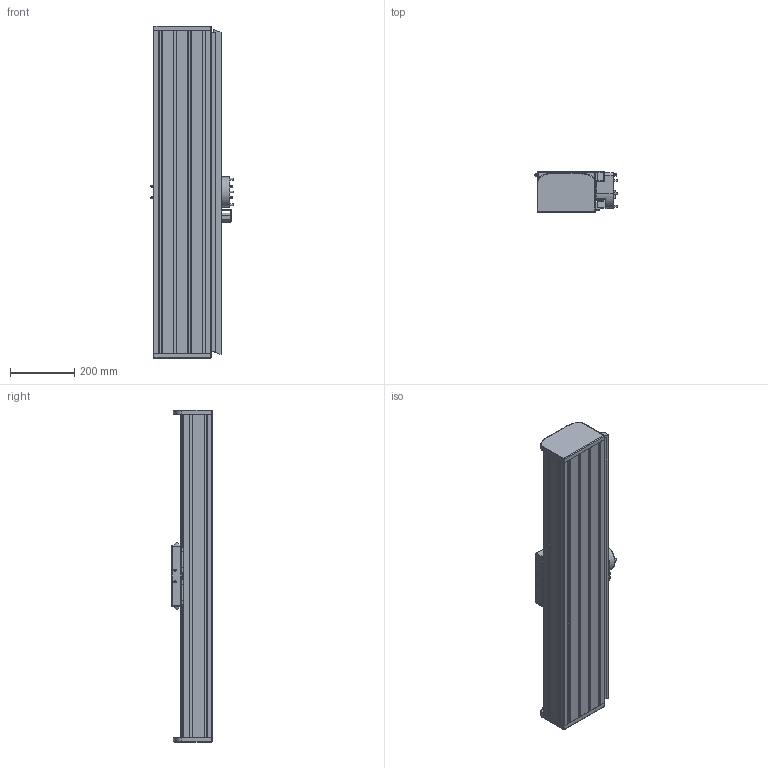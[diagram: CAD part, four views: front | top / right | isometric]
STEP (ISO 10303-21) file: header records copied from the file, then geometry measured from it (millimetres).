
FILE_DESCRIPTION(/* description */ ('00'),/* implementation_level */ '2;1');
FILE_NAME(/* name */ 'D:\EVOLVE\STUDIO_EVOLVE\LIBRERIA_MODELLI\UNITÀ_RACK_SERIE_A\URA_SIMPLIFIED\URA_180_S_TSNP025_X0790.stp',/* time_stamp */ '2022-04-13T17:08:08+02:00',/* author */ ('Daniel'),/* organization */ (''),/* preprocessor_version */ 'ST-DEVELOPER v18.1',/* originating_system */ 'Autodesk Inventor 2021',/* authorisation */ '');
FILE_SCHEMA (('AUTOMOTIVE_DESIGN { 1 0 10303 214 3 1 1 }'));
Products named in the file (3): URA_180_S_TSNP025_X0790; AS_URA_180_L1000_SIMPLIFIED; CR_URA_180_S_TSNP025_SIMPLIFIED
Assembly tree (2 placements, depth 2):
  URA_180_S_TSNP025_X0790
    AS_URA_180_L1000_SIMPLIFIED
    CR_URA_180_S_TSNP025_SIMPLIFIED
Bounding box: 257.6 x 125 x 1030 mm (x, y, z)
Volume: 17607819.9 mm3; surface area: 1662456.8 mm2
Topology: 99 solids, 100 shells, 2219 faces, 5725 edges, 3762 vertices
Faces by surface type: plane 1533, cylinder 429, bspline 137, cone 65, torus 30, sphere 25
Full cylindrical faces by diameter (mm): 6 x4, 6.647 x9, 8 x4, 9.5 x100, 12 x1, 20 x4, 27 x2, 40 x1, 41 x2, 60 x1, 68 x1
Entity records: 70337 total; most frequent: CARTESIAN_POINT 15645, ORIENTED_EDGE 11420, DIRECTION 10432, EDGE_CURVE 5710, LINE 4150, VECTOR 4150, VERTEX_POINT 3762, AXIS2_PLACEMENT_3D 3141
